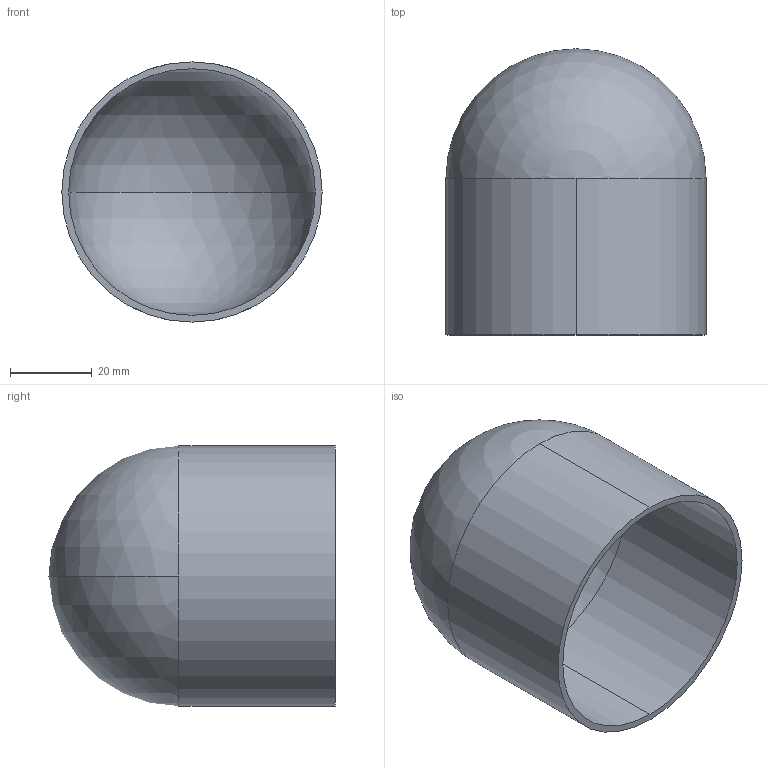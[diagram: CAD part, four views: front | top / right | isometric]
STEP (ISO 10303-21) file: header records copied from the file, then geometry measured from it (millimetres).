
FILE_DESCRIPTION (( 'STEP AP214' ), '1' );
FILE_NAME ('TE16W6L2.5-...STEP', '2016-06-01T14:01:14', ( 'eran' ), ( '' ), 'SwSTEP 2.0', 'SolidWorks 2016', '' );
FILE_SCHEMA (( 'AUTOMOTIVE_DESIGN' ));
Length unit declared in the file: millimetre
Products named in the file (1): TE16W6L2.5-..
Bounding box: 63.5 x 69.85 x 63.5 mm (x, y, z)
Volume: 22132.3 mm3; surface area: 27153.3 mm2
Topology: 1 solids, 1 shells, 9 faces, 24 edges, 14 vertices
Faces by surface type: cylinder 4, sphere 4, plane 1
Entity records: 300 total; most frequent: DIRECTION 56, CARTESIAN_POINT 44, ORIENTED_EDGE 40, AXIS2_PLACEMENT_3D 26, EDGE_CURVE 20, CIRCLE 16, VERTEX_POINT 14, EDGE_LOOP 10
